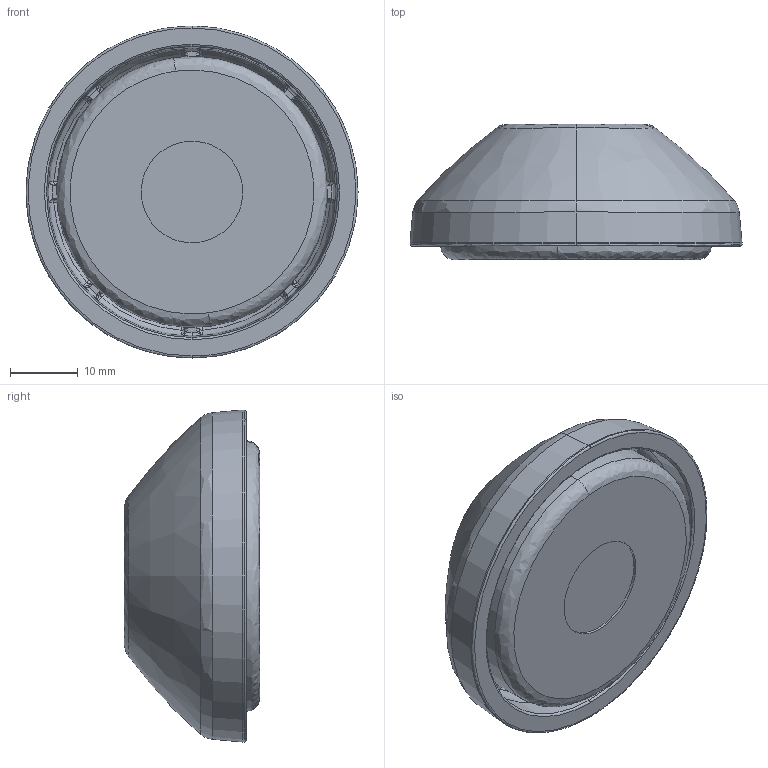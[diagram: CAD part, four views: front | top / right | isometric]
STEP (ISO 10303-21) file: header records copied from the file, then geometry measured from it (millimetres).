
FILE_DESCRIPTION (( 'STEP AP203' ), '1' );
FILE_NAME ('501325_Teller PA Ø50 für Gelenkstellfuß leitfähig inkl. Gummiteller.step', '2022-11-09T10:59:54', ( '' ), ( '' ), 'SwSTEP 2.0', 'SolidWorks 2021', '' );
FILE_SCHEMA (( 'CONFIG_CONTROL_DESIGN' ));
Length unit declared in the file: millimetre
Products named in the file (1): 501325_Teller PA Ø50 für Gelenkstellfuß leitfähig inkl. Gummiteller
Bounding box: 49 x 20 x 49 mm (x, y, z)
Volume: 20061.4 mm3; surface area: 11277.8 mm2
Topology: 2 solids, 2 shells, 425 faces, 999 edges, 556 vertices
Faces by surface type: bspline 300, plane 45, cone 42, cylinder 38
Entity records: 17543 total; most frequent: CARTESIAN_POINT 9950, ORIENTED_EDGE 1942, DIRECTION 1094, EDGE_CURVE 971, VERTEX_POINT 556, AXIS2_PLACEMENT_3D 497, B_SPLINE_CURVE_WITH_KNOTS 467, EDGE_LOOP 431
